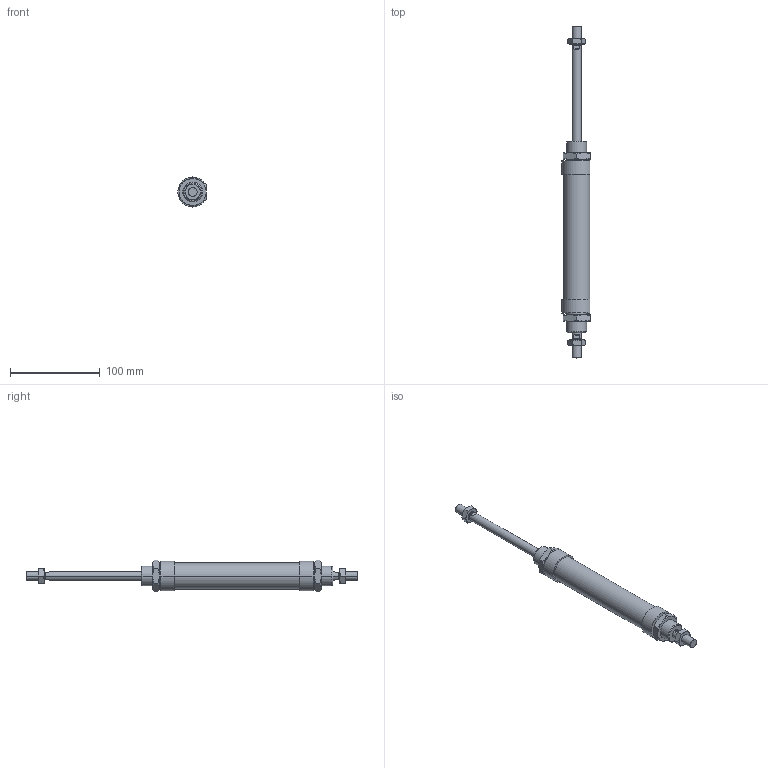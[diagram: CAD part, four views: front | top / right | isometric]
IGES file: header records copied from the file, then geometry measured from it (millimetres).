
Global section: file name: No Iges File Name specified; native system: AutoDesk Inventor R6.0; preprocessor: AutoDesk Inventor Iges Exporter R6.0; author: No Author specified; organization: No Organization specified; date: 20030403.072458; units: millimetre
Bounding box: 31.5 x 369 x 34.64 mm (x, y, z)
Volume: 152920.2 mm3; surface area: 45199.7 mm2
Topology: 6 solids, 6 shells, 184 faces, 396 edges, 232 vertices
Faces by surface type: cone 68, plane 60, bspline 30, cylinder 20, revolution 6
